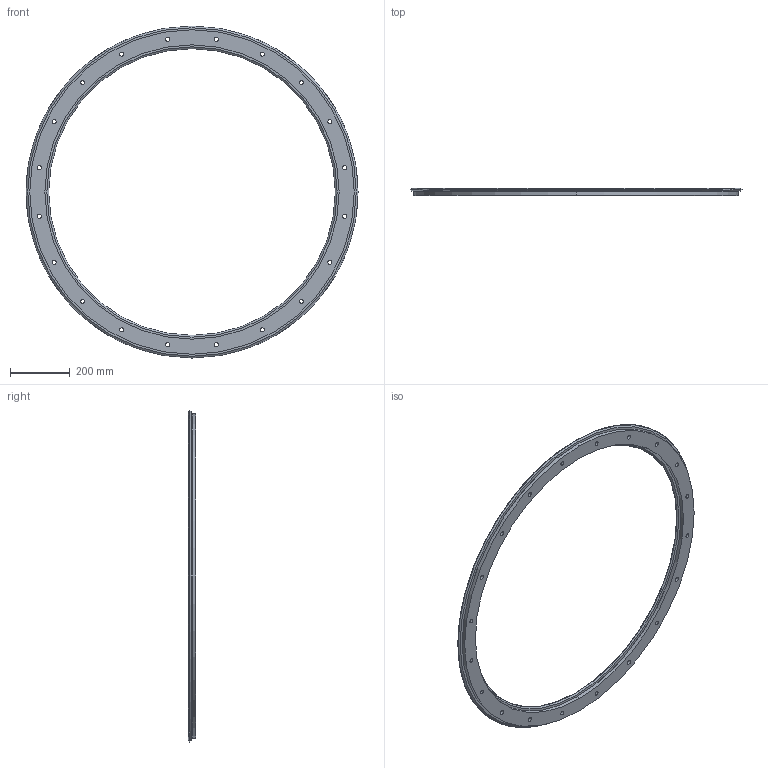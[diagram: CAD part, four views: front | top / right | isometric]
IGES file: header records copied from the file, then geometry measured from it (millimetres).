
Start section: 3D InterOp IGES (v. 2020 1.0.1), Spatial Corp. Copyright (c) 1999-2017.
Global section: file name: r76_1033_r360.igs; native system: Spatial Corp.; preprocessor: 3D InterOp ACIS/IGES; author: TraceParts; organization: TraceParts S.A.; date: 20220624.073250; units: millimetre
Bounding box: 1108.61 x 24 x 1108.61 mm (x, y, z)
Surface area: 678423.2 mm2 (no closed solid volume)
Topology: 0 solids, 0 shells, 130 faces, 600 edges, 600 vertices
Faces by surface type: revolution 104, extrusion 26
